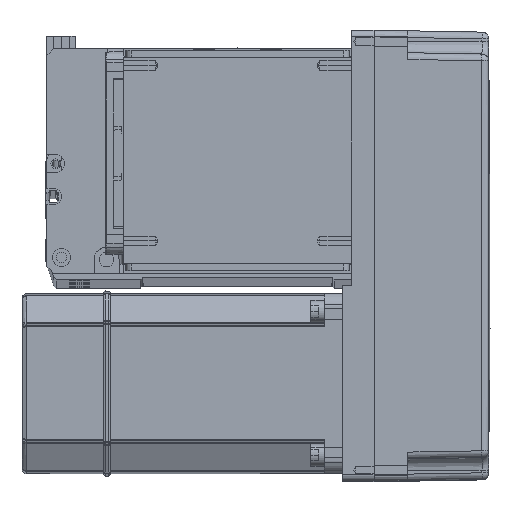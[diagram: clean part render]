
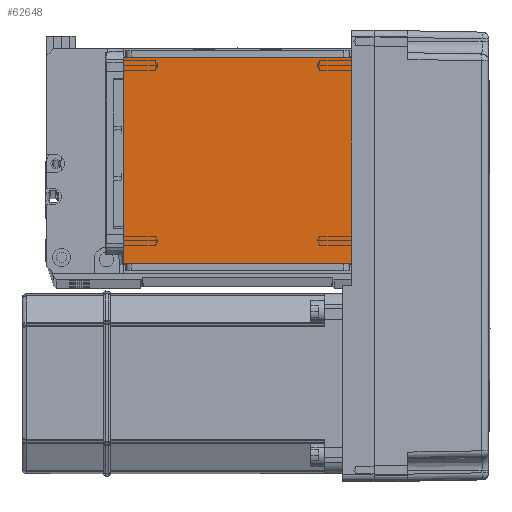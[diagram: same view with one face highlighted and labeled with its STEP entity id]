
A CAD part, top view. The second image highlights one B-rep face of the part: STEP entity #62648.
In plain terms, the highlighted planar face has unit normal (0, 0, 1).
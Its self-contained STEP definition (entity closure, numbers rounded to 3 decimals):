
#907 = ORIENTED_EDGE ( 'NONE', *, *, #38810, .F. ) ;
#1093 = EDGE_LOOP ( 'NONE', ( #907, #26510, #57492, #16473 ) ) ;
#1442 = VERTEX_POINT ( 'NONE', #12455 ) ;
#1655 = CARTESIAN_POINT ( 'NONE',  ( -50.5, 111.5, 115. ) ) ;
#3637 = LINE ( 'NONE', #16632, #30131 ) ;
#11028 = EDGE_CURVE ( 'NONE', #39722, #59781, #60113, .T. ) ;
#12455 = CARTESIAN_POINT ( 'NONE',  ( -50.5, 20., 115. ) ) ;
#14420 = DIRECTION ( 'NONE',  ( 0., -1., 0. ) ) ;
#14845 = CARTESIAN_POINT ( 'NONE',  ( -50.5, 122., 115. ) ) ;
#16473 = ORIENTED_EDGE ( 'NONE', *, *, #11028, .T. ) ;
#16632 = CARTESIAN_POINT ( 'NONE',  ( -70.004, 20., 115. ) ) ;
#18588 = CARTESIAN_POINT ( 'NONE',  ( 0., 0., 115. ) ) ;
#23561 = CARTESIAN_POINT ( 'NONE',  ( 50.5, 122., 115. ) ) ;
#26510 = ORIENTED_EDGE ( 'NONE', *, *, #50033, .T. ) ;
#27516 = CARTESIAN_POINT ( 'NONE',  ( 50.5, 20., 115. ) ) ;
#28055 = CARTESIAN_POINT ( 'NONE',  ( -70.004, 111.5, 115. ) ) ;
#30131 = VECTOR ( 'NONE', #45972, 1000. ) ;
#31209 = LINE ( 'NONE', #14845, #50227 ) ;
#32046 = FACE_OUTER_BOUND ( 'NONE', #1093, .T. ) ;
#33618 = CARTESIAN_POINT ( 'NONE',  ( 50.5, 111.5, 115. ) ) ;
#36597 = LINE ( 'NONE', #28055, #45683 ) ;
#37430 = DIRECTION ( 'NONE',  ( 1., 0., 0. ) ) ;
#38033 = AXIS2_PLACEMENT_3D ( 'NONE', #18588, #62494, #52143 ) ;
#38269 = DIRECTION ( 'NONE',  ( 0., 1., 0. ) ) ;
#38810 = EDGE_CURVE ( 'NONE', #45308, #59781, #36597, .T. ) ;
#39722 = VERTEX_POINT ( 'NONE', #27516 ) ;
#45308 = VERTEX_POINT ( 'NONE', #1655 ) ;
#45683 = VECTOR ( 'NONE', #37430, 1000. ) ;
#45972 = DIRECTION ( 'NONE',  ( -1., 0., 0. ) ) ;
#50033 = EDGE_CURVE ( 'NONE', #45308, #1442, #31209, .T. ) ;
#50227 = VECTOR ( 'NONE', #14420, 1000. ) ;
#52143 = DIRECTION ( 'NONE',  ( 1., 0., 0. ) ) ;
#55574 = VECTOR ( 'NONE', #38269, 1000. ) ;
#57359 = EDGE_CURVE ( 'NONE', #39722, #1442, #3637, .T. ) ;
#57429 = PLANE ( 'NONE',  #38033 ) ;
#57492 = ORIENTED_EDGE ( 'NONE', *, *, #57359, .F. ) ;
#59781 = VERTEX_POINT ( 'NONE', #33618 ) ;
#60113 = LINE ( 'NONE', #23561, #55574 ) ;
#62494 = DIRECTION ( 'NONE',  ( 0., 0., 1. ) ) ;
#62648 = ADVANCED_FACE ( 'NONE', ( #32046 ), #57429, .T. ) ;
